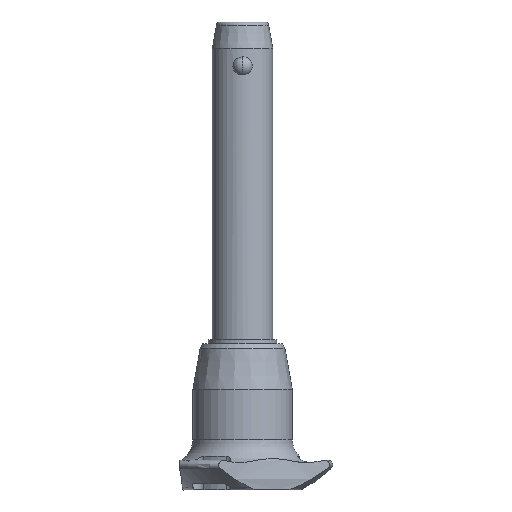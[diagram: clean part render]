
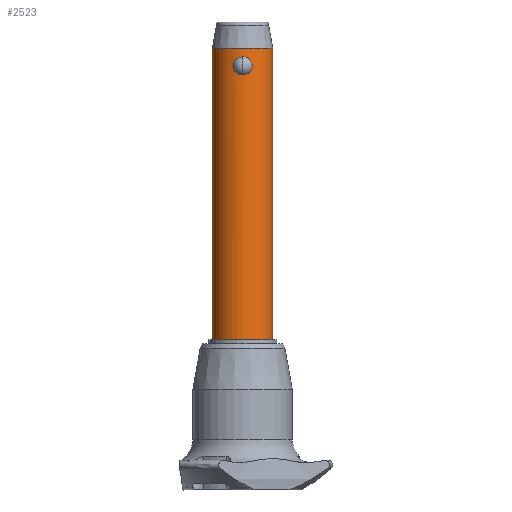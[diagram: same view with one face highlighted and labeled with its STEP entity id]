
A CAD part, front view. The second image highlights one B-rep face of the part: STEP entity #2523.
In plain terms, the highlighted cylindrical face has radius 8 mm (diameter 16 mm), a partial arc.
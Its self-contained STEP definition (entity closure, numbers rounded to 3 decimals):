
#18 = CARTESIAN_POINT ( 'NONE',  ( -2.411, -7.628, 1.592 ) ) ;
#32 = CARTESIAN_POINT ( 'NONE',  ( -2.529, -7.59, 2.716 ) ) ;
#51 = CARTESIAN_POINT ( 'NONE',  ( -2.529, -7.59, 2.064 ) ) ;
#57 = B_SPLINE_CURVE_WITH_KNOTS ( 'NONE', 3,
 ( #1876, #2753, #1661, #1605, #2552, #1620, #2332, #758, #2536, #2524, #302, #2318, #2741, #1397, #496, #278, #2511, #1636, #2302, #1155, #2714, #2057, #317, #1442, #76, #333, #1211, #1822, #2070, #291 ),
 .UNSPECIFIED., .F., .F.,
 ( 4, 2, 2, 2, 2, 2, 2, 2, 2, 2, 2, 2, 2, 2, 4 ),
 ( 0.008, 0.009, 0.009, 0.01, 0.01, 0.011, 0.011, 0.012, 0.012, 0.013, 0.014, 0.014, 0.015, 0.015, 0.016 ),
 .UNSPECIFIED. ) ;
#76 = CARTESIAN_POINT ( 'NONE',  ( 1.108, -7.924, 4.548 ) ) ;
#186 = EDGE_LOOP ( 'NONE', ( #962, #1144, #575, #2485 ) ) ;
#189 = AXIS2_PLACEMENT_3D ( 'NONE', #688, #2673, #1580 ) ;
#210 = FACE_BOUND ( 'NONE', #2556, .T. ) ;
#251 = CARTESIAN_POINT ( 'NONE',  ( -1.896, -7.773, 4.001 ) ) ;
#264 = CYLINDRICAL_SURFACE ( 'NONE', #602, 8. ) ;
#278 = CARTESIAN_POINT ( 'NONE',  ( 2.547, -7.584, 2.549 ) ) ;
#291 = CARTESIAN_POINT ( 'NONE',  ( 0., -8., 4.775 ) ) ;
#302 = CARTESIAN_POINT ( 'NONE',  ( 2.275, -7.67, 1.291 ) ) ;
#311 = VECTOR ( 'NONE', #828, 1000. ) ;
#317 = CARTESIAN_POINT ( 'NONE',  ( 1.529, -7.854, 4.312 ) ) ;
#333 = CARTESIAN_POINT ( 'NONE',  ( 0.804, -7.961, 4.661 ) ) ;
#371 = CARTESIAN_POINT ( 'NONE',  ( -0.326, -7.995, 4.761 ) ) ;
#441 = CARTESIAN_POINT ( 'NONE',  ( -1.659, -7.827, 0.559 ) ) ;
#454 = CARTESIAN_POINT ( 'NONE',  ( -2.408, -7.629, 3.189 ) ) ;
#492 = LINE ( 'NONE', #1377, #1626 ) ;
#496 = CARTESIAN_POINT ( 'NONE',  ( 2.546, -7.584, 2.22 ) ) ;
#575 = ORIENTED_EDGE ( 'NONE', *, *, #1977, .T. ) ;
#602 = AXIS2_PLACEMENT_3D ( 'NONE', #1772, #2208, #2236 ) ;
#655 = EDGE_CURVE ( 'NONE', #917, #1903, #2388, .T. ) ;
#673 = CARTESIAN_POINT ( 'NONE',  ( 0., -8., 0. ) ) ;
#688 = CARTESIAN_POINT ( 'NONE',  ( 0., 0., -70. ) ) ;
#703 = CARTESIAN_POINT ( 'NONE',  ( -1.252, -7.903, 4.479 ) ) ;
#724 = CARTESIAN_POINT ( 'NONE',  ( 0., -8., 0. ) ) ;
#758 = CARTESIAN_POINT ( 'NONE',  ( 1.894, -7.773, 0.773 ) ) ;
#805 = ORIENTED_EDGE ( 'NONE', *, *, #2486, .F. ) ;
#828 = DIRECTION ( 'NONE',  ( 0., 0., 1. ) ) ;
#874 = CARTESIAN_POINT ( 'NONE',  ( -2.003, -7.746, 3.882 ) ) ;
#899 = CARTESIAN_POINT ( 'NONE',  ( -0.652, -7.979, 0.058 ) ) ;
#915 = CARTESIAN_POINT ( 'NONE',  ( -2.016, -7.746, 0.883 ) ) ;
#917 = VERTEX_POINT ( 'NONE', #1165 ) ;
#962 = ORIENTED_EDGE ( 'NONE', *, *, #655, .F. ) ;
#1063 = CARTESIAN_POINT ( 'NONE',  ( -0.645, -7.976, 4.704 ) ) ;
#1090 = DIRECTION ( 'NONE',  ( 0., 0., -1. ) ) ;
#1113 = CARTESIAN_POINT ( 'NONE',  ( -1.527, -7.854, 4.313 ) ) ;
#1125 = CARTESIAN_POINT ( 'NONE',  ( -1.53, -7.854, 0.464 ) ) ;
#1142 = CARTESIAN_POINT ( 'NONE',  ( -1.107, -7.924, 4.548 ) ) ;
#1144 = ORIENTED_EDGE ( 'NONE', *, *, #2565, .F. ) ;
#1155 = CARTESIAN_POINT ( 'NONE',  ( 2.211, -7.69, 3.626 ) ) ;
#1165 = CARTESIAN_POINT ( 'NONE',  ( -8., 0., -70. ) ) ;
#1211 = CARTESIAN_POINT ( 'NONE',  ( 0.645, -7.976, 4.704 ) ) ;
#1234 = CARTESIAN_POINT ( 'NONE',  ( -0.164, -8., 4.775 ) ) ;
#1359 = VERTEX_POINT ( 'NONE', #724 ) ;
#1377 = CARTESIAN_POINT ( 'NONE',  ( 8., 0., -70. ) ) ;
#1397 = CARTESIAN_POINT ( 'NONE',  ( 2.528, -7.59, 2.058 ) ) ;
#1421 = DIRECTION ( 'NONE',  ( 0., 0., 1. ) ) ;
#1442 = CARTESIAN_POINT ( 'NONE',  ( 1.253, -7.903, 4.478 ) ) ;
#1508 = CARTESIAN_POINT ( 'NONE',  ( 0., -8., 4.775 ) ) ;
#1565 = EDGE_CURVE ( 'NONE', #1359, #2592, #57, .T. ) ;
#1580 = DIRECTION ( 'NONE',  ( 1., 0., 0. ) ) ;
#1593 = CARTESIAN_POINT ( 'NONE',  ( -2.461, -7.612, 1.746 ) ) ;
#1605 = CARTESIAN_POINT ( 'NONE',  ( 1.105, -7.925, 0.226 ) ) ;
#1620 = CARTESIAN_POINT ( 'NONE',  ( 1.529, -7.854, 0.463 ) ) ;
#1626 = VECTOR ( 'NONE', #1421, 1000. ) ;
#1636 = CARTESIAN_POINT ( 'NONE',  ( 2.461, -7.612, 3.027 ) ) ;
#1661 = CARTESIAN_POINT ( 'NONE',  ( 0.652, -7.979, 0.058 ) ) ;
#1724 = CIRCLE ( 'NONE', #189, 8. ) ;
#1772 = CARTESIAN_POINT ( 'NONE',  ( 0., 0., -70. ) ) ;
#1795 = CARTESIAN_POINT ( 'NONE',  ( -0.324, -8., 0. ) ) ;
#1822 = CARTESIAN_POINT ( 'NONE',  ( 0.326, -7.995, 4.761 ) ) ;
#1876 = CARTESIAN_POINT ( 'NONE',  ( 0., -8., 0. ) ) ;
#1903 = VERTEX_POINT ( 'NONE', #2668 ) ;
#1906 = AXIS2_PLACEMENT_3D ( 'NONE', #2284, #1090, #1989 ) ;
#1961 = CARTESIAN_POINT ( 'NONE',  ( -0.803, -7.961, 4.661 ) ) ;
#1977 = EDGE_CURVE ( 'NONE', #2871, #2003, #492, .T. ) ;
#1984 = CARTESIAN_POINT ( 'NONE',  ( -2.546, -7.584, 2.553 ) ) ;
#1989 = DIRECTION ( 'NONE',  ( 1., 0., 0. ) ) ;
#2003 = VERTEX_POINT ( 'NONE', #2041 ) ;
#2017 = CARTESIAN_POINT ( 'NONE',  ( -1.658, -7.827, 4.216 ) ) ;
#2031 = CARTESIAN_POINT ( 'NONE',  ( -1.254, -7.902, 0.297 ) ) ;
#2041 = CARTESIAN_POINT ( 'NONE',  ( 8., 0., 7. ) ) ;
#2047 = CARTESIAN_POINT ( 'NONE',  ( -2.547, -7.584, 2.229 ) ) ;
#2057 = CARTESIAN_POINT ( 'NONE',  ( 1.66, -7.827, 4.215 ) ) ;
#2070 = CARTESIAN_POINT ( 'NONE',  ( 0.164, -8., 4.775 ) ) ;
#2198 = ORIENTED_EDGE ( 'NONE', *, *, #1565, .F. ) ;
#2208 = DIRECTION ( 'NONE',  ( 0., 0., 1. ) ) ;
#2236 = DIRECTION ( 'NONE',  ( 1., 0., 0. ) ) ;
#2249 = CARTESIAN_POINT ( 'NONE',  ( -2.193, -7.694, 3.623 ) ) ;
#2256 = EDGE_CURVE ( 'NONE', #2003, #1903, #2558, .T. ) ;
#2262 = FACE_OUTER_BOUND ( 'NONE', #186, .T. ) ;
#2284 = CARTESIAN_POINT ( 'NONE',  ( 0., 0., 7. ) ) ;
#2291 = CARTESIAN_POINT ( 'NONE',  ( 0., -8., 4.775 ) ) ;
#2302 = CARTESIAN_POINT ( 'NONE',  ( 2.41, -7.629, 3.184 ) ) ;
#2307 = B_SPLINE_CURVE_WITH_KNOTS ( 'NONE', 3,
 ( #1508, #1234, #371, #1063, #1961, #1142, #703, #1113, #2017, #251, #874, #2249, #2702, #454, #2427, #32, #1984, #2047, #51, #1593, #18, #2480, #915, #441, #1125, #2031, #2869, #899, #1795, #673 ),
 .UNSPECIFIED., .F., .F.,
 ( 4, 2, 2, 2, 2, 2, 2, 2, 2, 2, 2, 2, 2, 2, 4 ),
 ( 0., 0., 0.001, 0.001, 0.002, 0.002, 0.003, 0.003, 0.004, 0.004, 0.005, 0.006, 0.006, 0.007, 0.008 ),
 .UNSPECIFIED. ) ;
#2318 = CARTESIAN_POINT ( 'NONE',  ( 2.408, -7.629, 1.586 ) ) ;
#2332 = CARTESIAN_POINT ( 'NONE',  ( 1.657, -7.827, 0.558 ) ) ;
#2359 = CARTESIAN_POINT ( 'NONE',  ( -8., 0., -70. ) ) ;
#2388 = LINE ( 'NONE', #2359, #311 ) ;
#2415 = CARTESIAN_POINT ( 'NONE',  ( 8., 0., -70. ) ) ;
#2427 = CARTESIAN_POINT ( 'NONE',  ( -2.459, -7.613, 3.036 ) ) ;
#2480 = CARTESIAN_POINT ( 'NONE',  ( -2.211, -7.69, 1.148 ) ) ;
#2485 = ORIENTED_EDGE ( 'NONE', *, *, #2256, .T. ) ;
#2486 = EDGE_CURVE ( 'NONE', #2592, #1359, #2307, .T. ) ;
#2511 = CARTESIAN_POINT ( 'NONE',  ( 2.529, -7.59, 2.71 ) ) ;
#2523 = ADVANCED_FACE ( 'NONE', ( #2262, #210 ), #264, .T. ) ;
#2524 = CARTESIAN_POINT ( 'NONE',  ( 2.194, -7.694, 1.153 ) ) ;
#2536 = CARTESIAN_POINT ( 'NONE',  ( 2.004, -7.746, 0.894 ) ) ;
#2552 = CARTESIAN_POINT ( 'NONE',  ( 1.252, -7.903, 0.296 ) ) ;
#2556 = EDGE_LOOP ( 'NONE', ( #805, #2198 ) ) ;
#2558 = CIRCLE ( 'NONE', #1906, 8. ) ;
#2565 = EDGE_CURVE ( 'NONE', #2871, #917, #1724, .T. ) ;
#2592 = VERTEX_POINT ( 'NONE', #2291 ) ;
#2668 = CARTESIAN_POINT ( 'NONE',  ( -8., 0., 7. ) ) ;
#2673 = DIRECTION ( 'NONE',  ( 0., 0., -1. ) ) ;
#2702 = CARTESIAN_POINT ( 'NONE',  ( -2.276, -7.67, 3.482 ) ) ;
#2714 = CARTESIAN_POINT ( 'NONE',  ( 2.016, -7.746, 3.891 ) ) ;
#2741 = CARTESIAN_POINT ( 'NONE',  ( 2.46, -7.613, 1.742 ) ) ;
#2753 = CARTESIAN_POINT ( 'NONE',  ( 0.324, -8., 0. ) ) ;
#2869 = CARTESIAN_POINT ( 'NONE',  ( -1.106, -7.925, 0.226 ) ) ;
#2871 = VERTEX_POINT ( 'NONE', #2415 ) ;
